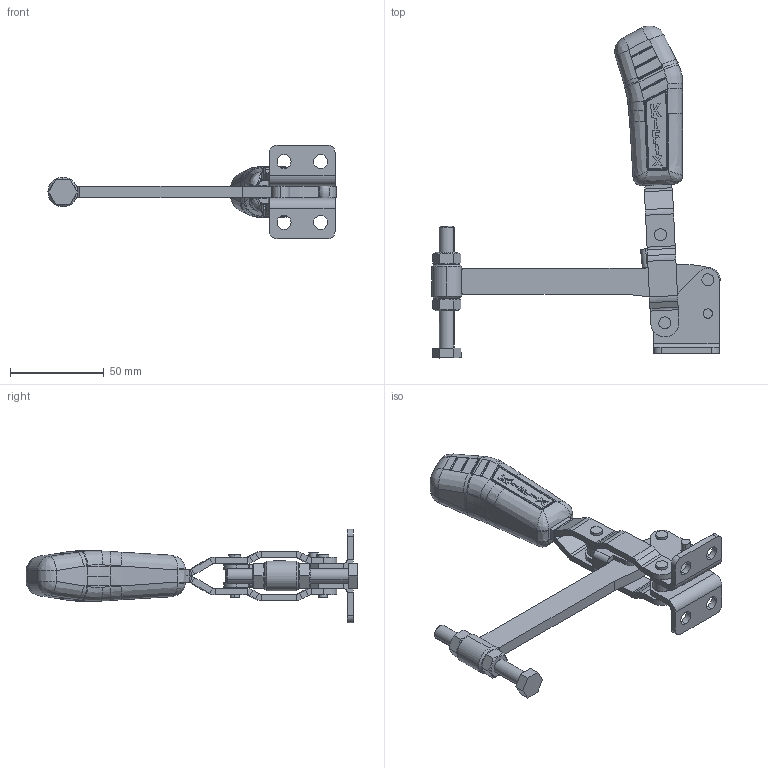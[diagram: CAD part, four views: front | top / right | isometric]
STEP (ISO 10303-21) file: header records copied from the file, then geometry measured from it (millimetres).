
FILE_DESCRIPTION (( 'STEP AP203' ), '1' );
FILE_NAME ('KF-016 DS.STEP', '2014-07-28T14:52:18', ( 'Ricardo' ), ( '' ), 'SwSTEP 2.0', 'SolidWorks 2013', '' );
FILE_SCHEMA (( 'CONFIG_CONTROL_DESIGN' ));
Length unit declared in the file: millimetre
Products named in the file (15): 11.50002; 01.10140; 04.10001; 06.50002; 04.20011; PSB-M8; 07.60001; 02.12095_Direita; KF-016 DS; 03.15022; 02.12095_Esquerda; 20.20004; 06.50001; 12.50020; 05.20046
Assembly tree (19 placements, depth 3):
  KF-016 DS
    02.12095_Direita
    02.12095_Esquerda
    06.50001  x2
    05.20046  x2
    01.10140  x2
    04.10001
    06.50002  x2
    04.20011
    07.60001
    03.15022
    PSB-M8
      20.20004
      12.50020
      11.50002  x2
Bounding box: 153.79 x 177.15 x 50 mm (x, y, z)
Volume: 93444.4 mm3; surface area: 46027.6 mm2
Topology: 18 solids, 18 shells, 699 faces, 1706 edges, 1058 vertices
Faces by surface type: plane 305, cylinder 213, bspline 130, cone 46, torus 5
Entity records: 22694 total; most frequent: CARTESIAN_POINT 8358, ORIENTED_EDGE 2892, DIRECTION 2208, EDGE_CURVE 1446, VERTEX_POINT 912, AXIS2_PLACEMENT_3D 788, EDGE_LOOP 650, LINE 632
